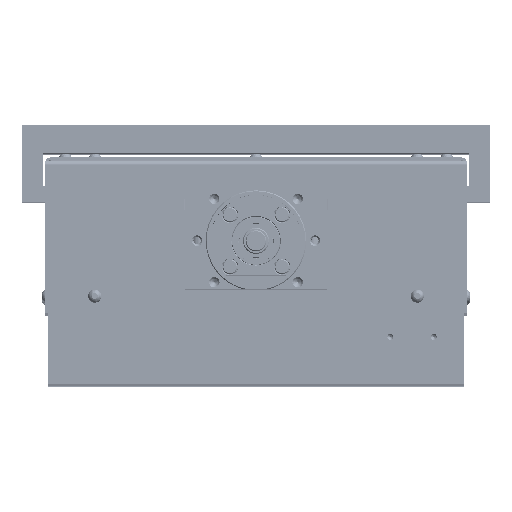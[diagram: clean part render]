
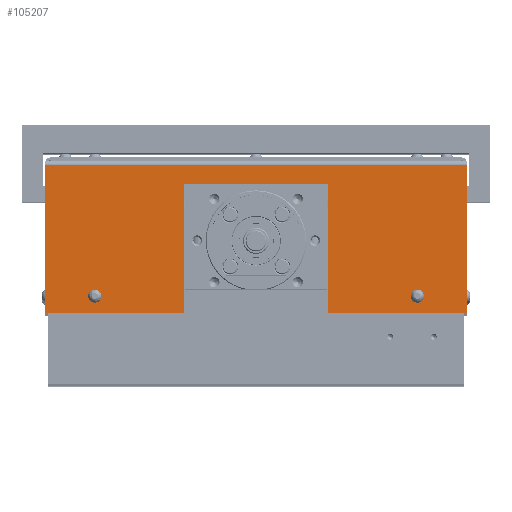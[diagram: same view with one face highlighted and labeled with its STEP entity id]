
A CAD part, top view. The second image highlights one B-rep face of the part: STEP entity #105207.
In plain terms, the highlighted planar face has unit normal (0, 0, 1).
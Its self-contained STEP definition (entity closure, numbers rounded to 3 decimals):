
#9106 = AXIS2_PLACEMENT_3D ( 'NONE', #12153, #12154, #12155 ) ;
#9107 = AXIS2_PLACEMENT_3D ( 'NONE', #12158, #12159, #12160 ) ;
#10599 = CIRCLE ( 'NONE', #9106, 3.8 ) ;
#10600 = CIRCLE ( 'NONE', #9107, 3.8 ) ;
#10661 = LINE ( 'NONE', #12244, #10668 ) ;
#10668 = VECTOR ( 'NONE', #12242, 1000. ) ;
#10674 = LINE ( 'NONE', #12260, #10684 ) ;
#10684 = VECTOR ( 'NONE', #12267, 1000. ) ;
#10761 = LINE ( 'NONE', #12418, #10763 ) ;
#10763 = VECTOR ( 'NONE', #12412, 1000. ) ;
#10764 = LINE ( 'NONE', #12430, #10766 ) ;
#10765 = LINE ( 'NONE', #12444, #10769 ) ;
#10766 = VECTOR ( 'NONE', #12422, 1000. ) ;
#10767 = LINE ( 'NONE', #12443, #10773 ) ;
#10769 = VECTOR ( 'NONE', #12438, 1000. ) ;
#10770 = LINE ( 'NONE', #12460, #10781 ) ;
#10773 = VECTOR ( 'NONE', #12454, 1000. ) ;
#10774 = LINE ( 'NONE', #12451, #10776 ) ;
#10776 = VECTOR ( 'NONE', #12440, 1000. ) ;
#10781 = VECTOR ( 'NONE', #12468, 1000. ) ;
#12153 = CARTESIAN_POINT ( 'NONE',  ( -96.052, -14.881, 437.627 ) ) ;
#12154 = DIRECTION ( 'NONE',  ( 0., 0., 1. ) ) ;
#12155 = DIRECTION ( 'NONE',  ( -1., 0., 0. ) ) ;
#12158 = CARTESIAN_POINT ( 'NONE',  ( 89.948, -14.881, 437.627 ) ) ;
#12159 = DIRECTION ( 'NONE',  ( 0., 0., 1. ) ) ;
#12160 = DIRECTION ( 'NONE',  ( -1., 0., 0. ) ) ;
#12242 = DIRECTION ( 'NONE',  ( 1., 0., 0. ) ) ;
#12244 = CARTESIAN_POINT ( 'NONE',  ( -124.552, -24.881, 437.627 ) ) ;
#12260 = CARTESIAN_POINT ( 'NONE',  ( -124.552, -24.881, 437.627 ) ) ;
#12267 = DIRECTION ( 'NONE',  ( 1., 0., 0. ) ) ;
#12412 = DIRECTION ( 'NONE',  ( 0., -1., 0. ) ) ;
#12418 = CARTESIAN_POINT ( 'NONE',  ( -44.552, -24.881, 437.627 ) ) ;
#12422 = DIRECTION ( 'NONE',  ( -1., 0., 0. ) ) ;
#12430 = CARTESIAN_POINT ( 'NONE',  ( -44.552, 49.619, 437.627 ) ) ;
#12438 = DIRECTION ( 'NONE',  ( 0., 1., 0. ) ) ;
#12440 = DIRECTION ( 'NONE',  ( 1., 0., 0. ) ) ;
#12443 = CARTESIAN_POINT ( 'NONE',  ( 118.448, -24.881, 437.627 ) ) ;
#12444 = CARTESIAN_POINT ( 'NONE',  ( 38.448, -24.881, 437.627 ) ) ;
#12451 = CARTESIAN_POINT ( 'NONE',  ( -124.552, 60.619, 437.627 ) ) ;
#12454 = DIRECTION ( 'NONE',  ( 0., 1., 0. ) ) ;
#12460 = CARTESIAN_POINT ( 'NONE',  ( -124.552, -24.881, 437.627 ) ) ;
#12468 = DIRECTION ( 'NONE',  ( 0., 1., 0. ) ) ;
#21020 = CIRCLE ( 'NONE', #154248, 3.8 ) ;
#21690 = CARTESIAN_POINT ( 'NONE',  ( 89.948, -11.081, 437.627 ) ) ;
#21693 = CARTESIAN_POINT ( 'NONE',  ( 89.948, -18.681, 437.627 ) ) ;
#21694 = CARTESIAN_POINT ( 'NONE',  ( -96.052, -11.081, 437.627 ) ) ;
#21697 = CARTESIAN_POINT ( 'NONE',  ( -96.052, -18.681, 437.627 ) ) ;
#25316 = ORIENTED_EDGE ( 'NONE', *, *, #108991, .F. ) ;
#25317 = ORIENTED_EDGE ( 'NONE', *, *, #55061, .F. ) ;
#25318 = ORIENTED_EDGE ( 'NONE', *, *, #55145, .T. ) ;
#25319 = ORIENTED_EDGE ( 'NONE', *, *, #55285, .F. ) ;
#25320 = ORIENTED_EDGE ( 'NONE', *, *, #55290, .F. ) ;
#25321 = ORIENTED_EDGE ( 'NONE', *, *, #55295, .F. ) ;
#25322 = ORIENTED_EDGE ( 'NONE', *, *, #55164, .T. ) ;
#25323 = ORIENTED_EDGE ( 'NONE', *, *, #55299, .T. ) ;
#25324 = ORIENTED_EDGE ( 'NONE', *, *, #55304, .F. ) ;
#25325 = ORIENTED_EDGE ( 'NONE', *, *, #55309, .F. ) ;
#25326 = ORIENTED_EDGE ( 'NONE', *, *, #130357, .F. ) ;
#25327 = ORIENTED_EDGE ( 'NONE', *, *, #55057, .F. ) ;
#27046 = CARTESIAN_POINT ( 'NONE',  ( -96.052, -14.881, 437.627 ) ) ;
#27047 = DIRECTION ( 'NONE',  ( 0., 0., 1. ) ) ;
#27048 = DIRECTION ( 'NONE',  ( -1., 0., 0. ) ) ;
#42788 = VERTEX_POINT ( 'NONE', #162304 ) ;
#42792 = VERTEX_POINT ( 'NONE', #162308 ) ;
#42810 = VERTEX_POINT ( 'NONE', #162323 ) ;
#42814 = VERTEX_POINT ( 'NONE', #162328 ) ;
#42833 = VERTEX_POINT ( 'NONE', #162346 ) ;
#42835 = VERTEX_POINT ( 'NONE', #162348 ) ;
#42837 = VERTEX_POINT ( 'NONE', #162350 ) ;
#42841 = VERTEX_POINT ( 'NONE', #162354 ) ;
#43831 = EDGE_LOOP ( 'NONE', ( #25318, #25319, #25320, #25321, #25322, #25323, #25324, #25325 ) ) ;
#43834 = EDGE_LOOP ( 'NONE', ( #25316, #25317 ) ) ;
#43850 = EDGE_LOOP ( 'NONE', ( #25326, #25327 ) ) ;
#55057 = EDGE_CURVE ( 'NONE', #123146, #123141, #10599, .T. ) ;
#55061 = EDGE_CURVE ( 'NONE', #123139, #123132, #10600, .T. ) ;
#55145 = EDGE_CURVE ( 'NONE', #42792, #42788, #10661, .T. ) ;
#55164 = EDGE_CURVE ( 'NONE', #42810, #42814, #10674, .T. ) ;
#55285 = EDGE_CURVE ( 'NONE', #42835, #42788, #10761, .T. ) ;
#55290 = EDGE_CURVE ( 'NONE', #42833, #42835, #10764, .T. ) ;
#55295 = EDGE_CURVE ( 'NONE', #42810, #42833, #10765, .T. ) ;
#55299 = EDGE_CURVE ( 'NONE', #42814, #42837, #10767, .T. ) ;
#55304 = EDGE_CURVE ( 'NONE', #42841, #42837, #10774, .T. ) ;
#55309 = EDGE_CURVE ( 'NONE', #42792, #42841, #10770, .T. ) ;
#68682 = FACE_BOUND ( 'NONE', #43850, .T. ) ;
#68685 = FACE_BOUND ( 'NONE', #43834, .T. ) ;
#68693 = FACE_OUTER_BOUND ( 'NONE', #43831, .T. ) ;
#71607 = DIRECTION ( 'NONE',  ( 0., 0., -1. ) ) ;
#71613 = CARTESIAN_POINT ( 'NONE',  ( -124.552, -24.881, 437.627 ) ) ;
#71616 = PLANE ( 'NONE',  #145618 ) ;
#71619 = DIRECTION ( 'NONE',  ( -1., 0., 0. ) ) ;
#105207 = ADVANCED_FACE ( 'NONE', ( #68685, #68693, #68682 ), #71616, .F. ) ;
#108991 = EDGE_CURVE ( 'NONE', #123132, #123139, #143338, .T. ) ;
#123132 = VERTEX_POINT ( 'NONE', #21690 ) ;
#123139 = VERTEX_POINT ( 'NONE', #21693 ) ;
#123141 = VERTEX_POINT ( 'NONE', #21694 ) ;
#123146 = VERTEX_POINT ( 'NONE', #21697 ) ;
#130357 = EDGE_CURVE ( 'NONE', #123141, #123146, #21020, .T. ) ;
#143338 = CIRCLE ( 'NONE', #152226, 3.8 ) ;
#145618 = AXIS2_PLACEMENT_3D ( 'NONE', #71613, #71607, #71619 ) ;
#152226 = AXIS2_PLACEMENT_3D ( 'NONE', #159195, #159196, #159197 ) ;
#154248 = AXIS2_PLACEMENT_3D ( 'NONE', #27046, #27047, #27048 ) ;
#159195 = CARTESIAN_POINT ( 'NONE',  ( 89.948, -14.881, 437.627 ) ) ;
#159196 = DIRECTION ( 'NONE',  ( 0., 0., 1. ) ) ;
#159197 = DIRECTION ( 'NONE',  ( -1., 0., 0. ) ) ;
#162304 = CARTESIAN_POINT ( 'NONE',  ( -44.552, -24.881, 437.627 ) ) ;
#162308 = CARTESIAN_POINT ( 'NONE',  ( -124.552, -24.881, 437.627 ) ) ;
#162323 = CARTESIAN_POINT ( 'NONE',  ( 38.448, -24.881, 437.627 ) ) ;
#162328 = CARTESIAN_POINT ( 'NONE',  ( 118.448, -24.881, 437.627 ) ) ;
#162346 = CARTESIAN_POINT ( 'NONE',  ( 38.448, 49.619, 437.627 ) ) ;
#162348 = CARTESIAN_POINT ( 'NONE',  ( -44.552, 49.619, 437.627 ) ) ;
#162350 = CARTESIAN_POINT ( 'NONE',  ( 118.448, 60.619, 437.627 ) ) ;
#162354 = CARTESIAN_POINT ( 'NONE',  ( -124.552, 60.619, 437.627 ) ) ;
